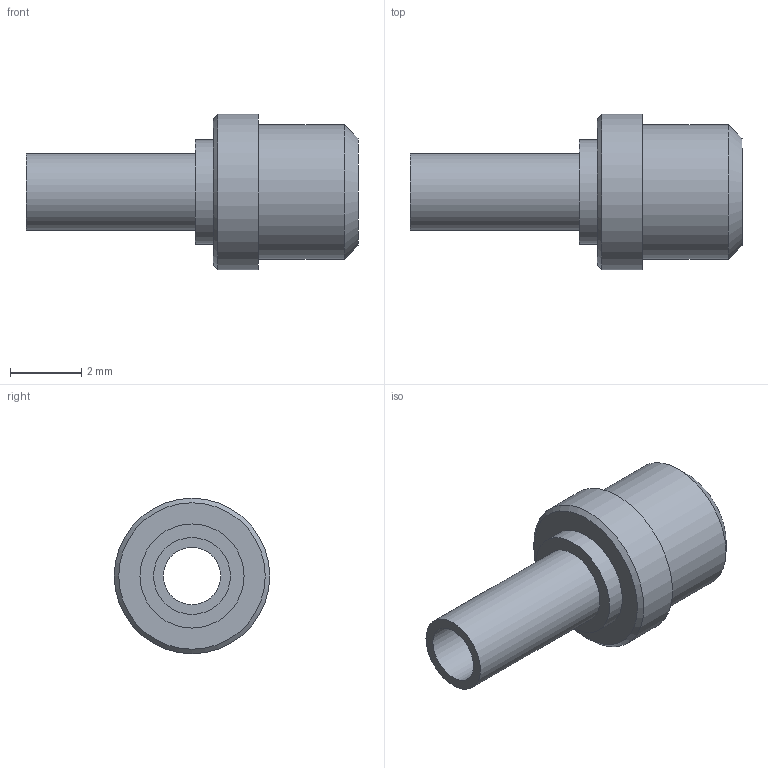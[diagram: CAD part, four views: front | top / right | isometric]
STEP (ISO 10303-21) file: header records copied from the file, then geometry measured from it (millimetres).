
FILE_DESCRIPTION(/* description */ (''),/* implementation_level */ '2;1');
FILE_NAME(/* name */ '\\Snap1\dwgs\Customer 3D Models\571\571-4193-01 Customer model.stp',/* time_stamp */ '2017-01-09T08:29:35+00:00',/* author */ ('paulk'),/* organization */ (''),/* preprocessor_version */ 'ST-DEVELOPER v15.2',/* originating_system */ 'Autodesk Inventor 2014',/* authorisation */ '');
FILE_SCHEMA (('CONFIG_CONTROL_DESIGN'));
Length unit declared in the file: millimetre
Products named in the file (1): 571-4193-01 Customer model
Bounding box: 9.32 x 4.37 x 4.37 mm (x, y, z)
Volume: 51.3 mm3; surface area: 156.8 mm2
Topology: 1 solids, 1 shells, 12 faces, 20 edges, 13 vertices
Faces by surface type: cylinder 5, plane 5, cone 2
Full cylindrical faces by diameter (mm): 1.613 x1, 2.159 x1, 2.921 x1, 3.785 x1, 4.369 x1
Entity records: 295 total; most frequent: DIRECTION 50, CARTESIAN_POINT 37, AXIS2_PLACEMENT_3D 25, EDGE_LOOP 24, ORIENTED_EDGE 24, FACE_BOUND 17, STYLED_ITEM 13, CIRCLE 12
